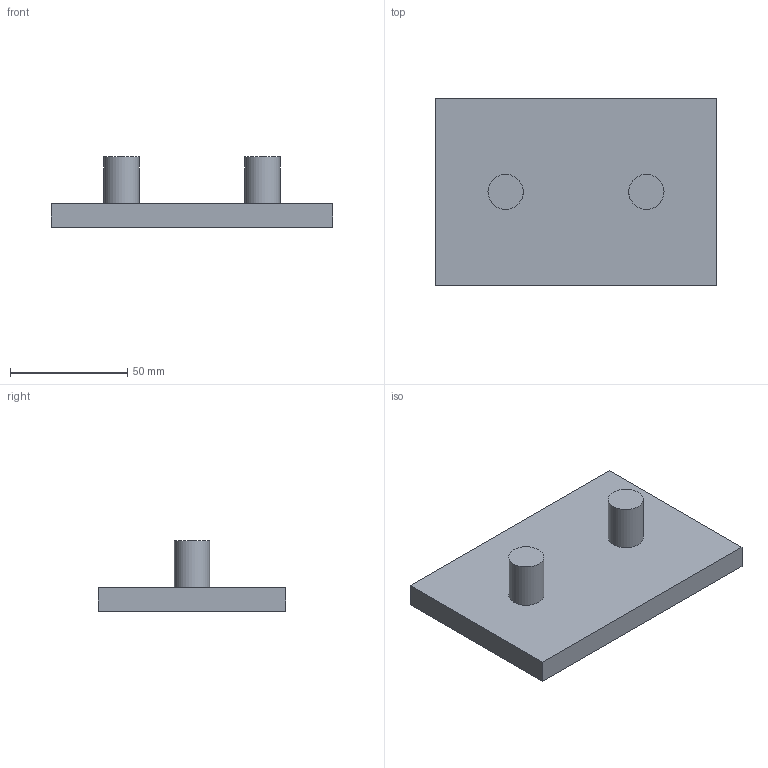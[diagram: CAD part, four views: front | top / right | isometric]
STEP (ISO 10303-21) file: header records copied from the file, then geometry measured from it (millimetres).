
FILE_DESCRIPTION(('Open CASCADE Model'),'2;1');
FILE_NAME('Open CASCADE Shape Model','2026-03-24T09:37:59',('Author'),( 'Open CASCADE'),'Open CASCADE STEP processor 7.8','Open CASCADE 7.8' ,'Unknown');
FILE_SCHEMA(('AUTOMOTIVE_DESIGN { 1 0 10303 214 1 1 1 1 }'));
Length unit declared in the file: millimetre
Products named in the file (1): Open CASCADE STEP translator 7.8 3
Bounding box: 120 x 80 x 30 mm (x, y, z)
Volume: 103068.6 mm3; surface area: 25085 mm2
Topology: 1 solids, 1 shells, 10 faces, 18 edges, 12 vertices
Faces by surface type: plane 8, cylinder 2
Full cylindrical faces by diameter (mm): 15 x2
Entity records: 490 total; most frequent: DIRECTION 80, CARTESIAN_POINT 77, LINE 46, VECTOR 46, ORIENTED_EDGE 36, PCURVE 36, DEFINITIONAL_REPRESENTATION 36, EDGE_CURVE 18
